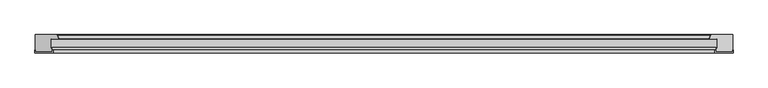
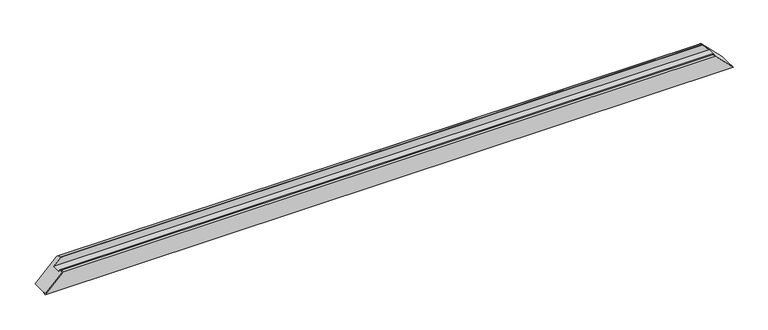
"""IFC4 building model written with IfcOpenShell, lengths in millimetres: proxy geometry, Weiku - Montante - Caixilho 02.2.01.005 : Weiku - Montante - Caixilho 02.2.01.005."""

from ifc_helpers import new_model, si_unit, frame, origin, place, context, project, spatial, ellipse_curve, faceted_brep, source, transform, mapped, element, save
from ifc_brep_helpers import plane_surface, cylinder_surface, advanced_brep


def generic_models_72a1366c(model_context):
    return source(origin(), model_context, "Body", "SolidModel", [
        faceted_brep([(-997.0, -43.5137905, 0.0), (-998.0, -43.5137905, -1.0), (-998.0, -52.0, -1.0), (-946.0, -52.0, 51.0), (-946.0, -43.5137905, 51.0), (-948.0, -43.5137905, 49.0), (-948.0, -50.0, 49.0), (-997.0, -50.0, 0.0), (997.0, -50.0, 0.0), (948.0, -50.0, 49.0), (948.0, -43.5137905, 49.0), (946.0, -43.5137905, 51.0), (946.0, -52.0, 51.0), (998.0, -52.0, -1.0), (998.0, -43.5137905, -1.0), (997.0, -43.5137905, 0.0)], [[[0, 1, 2, 3, 4, 5, 6, 7]], [[8, 9, 10, 11, 12, 13, 14, 15]], [[7, 8, 15, 0]], [[6, 9, 8, 7]], [[5, 10, 9, 6]], [[4, 11, 10, 5]], [[3, 12, 11, 4]], [[2, 13, 12, 3]], [[1, 14, 13, 2]], [[0, 15, 14, 1]]]),
        advanced_brep(
        [(-951.0, -12.5, 46.0), (951.0, -12.5, 46.0), (930.8909676, -12.5, 66.1090324), (-930.8909676, -12.5, 66.1090324), (-951.0, -37.8314286, 46.0), (951.0, -37.8314286, 46.0), (-948.0, -37.027581, 49.0), (948.0, -37.027581, 49.0), (-948.0, -50.0, 49.0), (948.0, -50.0, 49.0), (997.0, -50.0, 0.0), (-997.0, -50.0, 0.0), (-997.0, 0.0, 0.0), (997.0, 0.0, 0.0), (-935.4997332, 0.0, 61.5002668), (935.4997332, 0.0, 61.5002668), (-930.118227, -11.4929448, 66.881773), (930.118227, -11.4929448, 66.881773), (932.6019557, -2.2235429, 64.3980443), (-932.6019557, -2.2235429, 64.3980443)],
        [
            (0, 1),
            (1, 2),
            (2, 3),
            (3, 0),
            (4, 5),
            (5, 1),
            (0, 4),
            (6, 7),
            (7, 5),
            (4, 6),
            (8, 9),
            (9, 7),
            (6, 8),
            (10, 9),
            (8, 11),
            (11, 10),
            (11, 12),
            (12, 13),
            (13, 10),
            (12, 14),
            (14, 15),
            (15, 13),
            (16, 17),
            (17, 18),
            (18, 19),
            (19, 16),
            (3, 16, ellipse_curve(frame((-930.8909676, -11.7, 66.1090324), z_axis=(-0.7071067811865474, 0.0, 0.7071067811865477), x_axis=(-0.7071067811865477, 0.0, -0.7071067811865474)), 1.1313708, 0.8)),
            (19, 14, ellipse_curve(frame((-935.4997332, -3.0, 61.5002668), z_axis=(-0.7071067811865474, 0.0, 0.7071067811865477), x_axis=(-0.7071067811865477, 0.0, -0.7071067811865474)), 4.2426407, 3.0)),
            (15, 18, ellipse_curve(frame((935.4997332, -3.0, 61.5002668), z_axis=(0.7071067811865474, 0.0, 0.7071067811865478), x_axis=(-0.7071067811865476, 0.0, 0.7071067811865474)), 4.2426407, 3.0)),
            (17, 2, ellipse_curve(frame((930.8909676, -11.7, 66.1090324), z_axis=(0.7071067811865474, 0.0, 0.7071067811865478), x_axis=(-0.7071067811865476, 0.0, 0.7071067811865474)), 1.1313708, 0.8)),
        ],
        [
            plane_surface(frame((-997.0, -12.5, 66.1090324), z_axis=(0.0, -1.0, 0.0), x_axis=(1.0, 0.0, 0.0))),
            plane_surface(frame((-997.0, -12.5, 46.0), z_axis=(0.0, 0.0, 1.0), x_axis=(1.0, 0.0, 0.0))),
            plane_surface(frame((-997.0, -37.8314286, 46.0), z_axis=(0.0, 0.9659258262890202, -0.2588190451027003), x_axis=(1.0, 0.0, 0.0))),
            plane_surface(frame((-997.0, -37.027581, 49.0), z_axis=(0.0, 0.0, 1.0), x_axis=(1.0, 0.0, 0.0))),
            plane_surface(frame((-997.0, -50.0, 49.0), z_axis=(0.0, -1.0, 0.0), x_axis=(1.0, 0.0, 0.0))),
            plane_surface(frame((-997.0, -50.0, 0.0), z_axis=(0.0, 0.0, -1.0), x_axis=(1.0, 0.0, 0.0))),
            plane_surface(frame((-997.0, 0.0, 0.0), z_axis=(0.0, 1.0, 0.0), x_axis=(1.0, 0.0, 0.0))),
            plane_surface(frame((-997.0, -2.2235429, 64.3980443), z_axis=(0.0, 0.2588190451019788, 0.9659258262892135), x_axis=(1.0, 0.0, 0.0))),
            plane_surface(frame((-1067.0, 15.0, -70.0), z_axis=(-0.7071067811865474, 0.0, 0.7071067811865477), x_axis=(0.0, -1.0, 0.0))),
            plane_surface(frame((927.0, 15.0, 70.0), z_axis=(0.7071067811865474, 0.0, 0.7071067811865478), x_axis=(0.0, -1.0, 0.0))),
            cylinder_surface(frame((-997.0, -11.7, 66.1090324), z_axis=(-1.0, 0.0, 0.0), x_axis=(0.0, -1.0, 0.0)), 0.8),
            cylinder_surface(frame((-997.0, -3.0, 61.5002668), z_axis=(-1.0, 0.0, 0.0), x_axis=(0.0, -1.0, 0.0)), 3.0),
        ],
        [
            (0, [[1, 2, 3, 4]]),
            (1, [[5, 6, -1, 7]]),
            (2, [[8, 9, -5, 10]]),
            (3, [[11, 12, -8, 13]]),
            (4, [[14, -11, 15, 16]]),
            (5, [[17, 18, 19, -16]]),
            (6, [[20, 21, 22, -18]]),
            (7, [[23, 24, 25, 26]]),
            (8, [[27, -26, 28, -20, -17, -15, -13, -10, -7, -4]]),
            (9, [[-6, -9, -12, -14, -19, -22, 29, -24, 30, -2]]),
            (10, [[-3, -30, -23, -27]]),
            (11, [[-25, -29, -21, -28]]),
        ],
    ),
    ])


if __name__ == "__main__":
    model = new_model("IFC4")
    model_context = context("Model", 3, world=origin())
    ifc_project = project(units=[si_unit("LENGTHUNIT", "METRE", prefix="MILLI")], contexts=[model_context])
    site = spatial("IfcSite", under=ifc_project)
    building = spatial("IfcBuilding", under=site)
    placement = place(None, origin())
    generic_models_shape = generic_models_72a1366c(model_context)
    element("IfcBuildingElementProxy", 1, Name="Weiku - Montante - Caixilho 02.2.01.005 : Weiku - Montante - Caixilho 02.2.01.005", ObjectType="Weiku - Montante - Caixilho 02.2.01.005 : Weiku - Montante - Caixilho 02.2.01.005", at=placement, inside=building, context=model_context, shape_type="MappedRepresentation", body=[
        mapped(generic_models_shape, transform((0.0, 0.0, 0.0), x_axis=(1.0, 0.0, 0.0), y_axis=(0.0, 1.0, 0.0), z_axis=(0.0, 0.0, 1.0))),
    ])
    save(model, "model.ifc")
